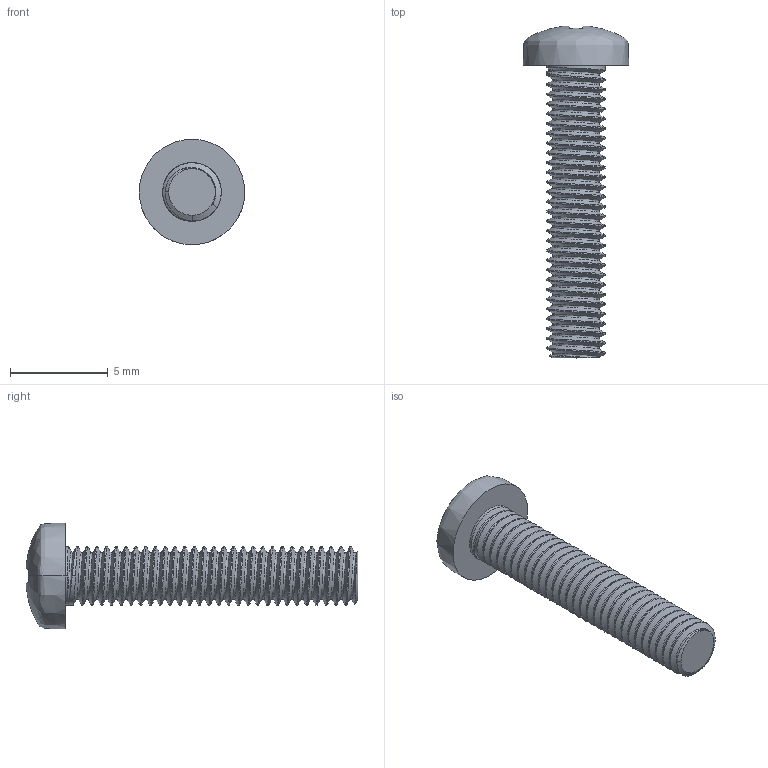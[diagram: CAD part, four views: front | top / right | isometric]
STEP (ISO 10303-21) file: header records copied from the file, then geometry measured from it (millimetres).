
FILE_DESCRIPTION(/* description */ (''),/* implementation_level */ '2;1');
FILE_NAME(/* name */ 'PERNOM~1',/* time_stamp */ '2019-04-02T18:27:25-03:00',/* author */ (''),/* organization */ (''),/* preprocessor_version */ 'ST-DEVELOPER v16.5',/* originating_system */ '',/* authorisation */ '');
FILE_SCHEMA (('AUTOMOTIVE_DESIGN'));
Length unit declared in the file: millimetre
Products named in the file (1): Document
Bounding box: 5.4 x 17 x 5.4 mm (x, y, z)
Volume: 119.9 mm3; surface area: 285.4 mm2
Topology: 1 solids, 1 shells, 94 faces, 264 edges, 169 vertices
Faces by surface type: bspline 84, plane 10
Entity records: 14503 total; most frequent: CARTESIAN_POINT 13012, ORIENTED_EDGE 520, EDGE_CURVE 260, B_SPLINE_CURVE_WITH_KNOTS 185, VERTEX_POINT 169, EDGE_LOOP 95, ADVANCED_FACE 94, FACE_OUTER_BOUND 94
